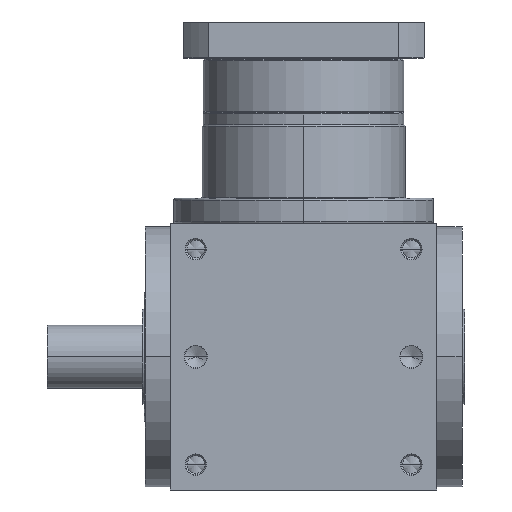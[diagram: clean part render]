
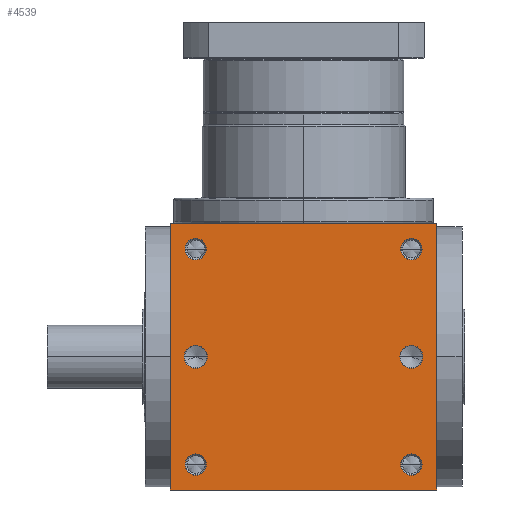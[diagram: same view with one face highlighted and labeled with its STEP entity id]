
A CAD part, front view. The second image highlights one B-rep face of the part: STEP entity #4539.
In plain terms, the highlighted planar face has unit normal (0, -1, 0).
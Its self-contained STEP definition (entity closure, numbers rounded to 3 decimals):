
#5=DIRECTION('',(1.,0.,0.));
#6=VECTOR('',#5,210.);
#7=CARTESIAN_POINT('',(-105.,-105.,-105.));
#8=LINE('',#7,#6);
#155=DIRECTION('',(0.,0.,1.));
#156=VECTOR('',#155,210.);
#157=CARTESIAN_POINT('',(105.,-105.,-105.));
#158=LINE('',#157,#156);
#209=DIRECTION('',(0.,0.,1.));
#210=VECTOR('',#209,210.);
#211=CARTESIAN_POINT('',(-105.,-105.,-105.));
#212=LINE('',#211,#210);
#213=CARTESIAN_POINT('',(85.,-105.,85.));
#214=DIRECTION('',(0.,1.,0.));
#215=DIRECTION('',(-1.,0.,0.));
#216=AXIS2_PLACEMENT_3D('',#213,#214,#215);
#218=CARTESIAN_POINT('',(85.,-105.,85.));
#219=DIRECTION('',(0.,1.,0.));
#220=DIRECTION('',(1.,0.,0.));
#221=AXIS2_PLACEMENT_3D('',#218,#219,#220);
#223=CARTESIAN_POINT('',(-85.,-105.,85.));
#224=DIRECTION('',(0.,1.,0.));
#225=DIRECTION('',(-1.,0.,0.));
#226=AXIS2_PLACEMENT_3D('',#223,#224,#225);
#228=CARTESIAN_POINT('',(-85.,-105.,85.));
#229=DIRECTION('',(0.,1.,0.));
#230=DIRECTION('',(1.,0.,0.));
#231=AXIS2_PLACEMENT_3D('',#228,#229,#230);
#233=CARTESIAN_POINT('',(85.,-105.,-85.));
#234=DIRECTION('',(0.,1.,0.));
#235=DIRECTION('',(-1.,0.,0.));
#236=AXIS2_PLACEMENT_3D('',#233,#234,#235);
#238=CARTESIAN_POINT('',(85.,-105.,-85.));
#239=DIRECTION('',(0.,1.,0.));
#240=DIRECTION('',(1.,0.,0.));
#241=AXIS2_PLACEMENT_3D('',#238,#239,#240);
#243=CARTESIAN_POINT('',(-85.,-105.,-85.));
#244=DIRECTION('',(0.,1.,0.));
#245=DIRECTION('',(-1.,0.,0.));
#246=AXIS2_PLACEMENT_3D('',#243,#244,#245);
#248=CARTESIAN_POINT('',(-85.,-105.,-85.));
#249=DIRECTION('',(0.,1.,0.));
#250=DIRECTION('',(1.,0.,0.));
#251=AXIS2_PLACEMENT_3D('',#248,#249,#250);
#253=CARTESIAN_POINT('',(-85.,-105.,0.));
#254=DIRECTION('',(0.,1.,0.));
#255=DIRECTION('',(1.,0.,0.));
#256=AXIS2_PLACEMENT_3D('',#253,#254,#255);
#258=CARTESIAN_POINT('',(-85.,-105.,0.));
#259=DIRECTION('',(0.,1.,0.));
#260=DIRECTION('',(-1.,0.,0.));
#261=AXIS2_PLACEMENT_3D('',#258,#259,#260);
#263=CARTESIAN_POINT('',(85.,-105.,0.));
#264=DIRECTION('',(0.,1.,0.));
#265=DIRECTION('',(1.,0.,0.));
#266=AXIS2_PLACEMENT_3D('',#263,#264,#265);
#268=CARTESIAN_POINT('',(85.,-105.,0.));
#269=DIRECTION('',(0.,1.,0.));
#270=DIRECTION('',(-1.,0.,0.));
#271=AXIS2_PLACEMENT_3D('',#268,#269,#270);
#285=DIRECTION('',(1.,0.,0.));
#286=VECTOR('',#285,210.);
#287=CARTESIAN_POINT('',(-105.,-105.,105.));
#288=LINE('',#287,#286);
#3660=CARTESIAN_POINT('',(-105.,-105.,-105.));
#3662=VERTEX_POINT('',#3660);
#3663=CARTESIAN_POINT('',(105.,-105.,-105.));
#3664=VERTEX_POINT('',#3663);
#3668=CARTESIAN_POINT('',(-105.,-105.,105.));
#3670=VERTEX_POINT('',#3668);
#3671=CARTESIAN_POINT('',(105.,-105.,105.));
#3672=VERTEX_POINT('',#3671);
#3843=CARTESIAN_POINT('',(76.6,-105.,85.));
#3844=CARTESIAN_POINT('',(93.4,-105.,85.));
#3845=VERTEX_POINT('',#3843);
#3846=VERTEX_POINT('',#3844);
#3851=CARTESIAN_POINT('',(-93.4,-105.,85.));
#3852=CARTESIAN_POINT('',(-76.6,-105.,85.));
#3853=VERTEX_POINT('',#3851);
#3854=VERTEX_POINT('',#3852);
#3859=CARTESIAN_POINT('',(76.6,-105.,-85.));
#3860=CARTESIAN_POINT('',(93.4,-105.,-85.));
#3861=VERTEX_POINT('',#3859);
#3862=VERTEX_POINT('',#3860);
#3867=CARTESIAN_POINT('',(-93.4,-105.,-85.));
#3868=CARTESIAN_POINT('',(-76.6,-105.,-85.));
#3869=VERTEX_POINT('',#3867);
#3870=VERTEX_POINT('',#3868);
#4209=CARTESIAN_POINT('',(-75.95,-105.,
0.));
#4210=CARTESIAN_POINT('',(-94.05,-105.,
0.));
#4211=VERTEX_POINT('',#4209);
#4212=VERTEX_POINT('',#4210);
#4217=CARTESIAN_POINT('',(94.05,-105.,0.));
#4218=CARTESIAN_POINT('',(75.95,-105.,0.));
#4219=VERTEX_POINT('',#4217);
#4220=VERTEX_POINT('',#4218);
#4491=CARTESIAN_POINT('',(-105.,-105.,-105.));
#4492=DIRECTION('',(0.,-1.,0.));
#4493=DIRECTION('',(1.,0.,0.));
#4494=AXIS2_PLACEMENT_3D('',#4491,#4492,#4493);
#4495=PLANE('',#4494);
#4496=ORIENTED_EDGE('',*,*,#4331,.F.);
#4497=ORIENTED_EDGE('',*,*,#4374,.T.);
#4499=ORIENTED_EDGE('',*,*,#4498,.T.);
#4500=ORIENTED_EDGE('',*,*,#4453,.F.);
#4501=EDGE_LOOP('',(#4496,#4497,#4499,#4500));
#4502=FACE_OUTER_BOUND('',#4501,.F.);
#4504=ORIENTED_EDGE('',*,*,#4503,.F.);
#4506=ORIENTED_EDGE('',*,*,#4505,.F.);
#4507=EDGE_LOOP('',(#4504,#4506));
#4508=FACE_BOUND('',#4507,.F.);
#4510=ORIENTED_EDGE('',*,*,#4509,.F.);
#4512=ORIENTED_EDGE('',*,*,#4511,.F.);
#4513=EDGE_LOOP('',(#4510,#4512));
#4514=FACE_BOUND('',#4513,.F.);
#4516=ORIENTED_EDGE('',*,*,#4515,.F.);
#4518=ORIENTED_EDGE('',*,*,#4517,.F.);
#4519=EDGE_LOOP('',(#4516,#4518));
#4520=FACE_BOUND('',#4519,.F.);
#4522=ORIENTED_EDGE('',*,*,#4521,.F.);
#4524=ORIENTED_EDGE('',*,*,#4523,.F.);
#4525=EDGE_LOOP('',(#4522,#4524));
#4526=FACE_BOUND('',#4525,.F.);
#4528=ORIENTED_EDGE('',*,*,#4527,.F.);
#4530=ORIENTED_EDGE('',*,*,#4529,.F.);
#4531=EDGE_LOOP('',(#4528,#4530));
#4532=FACE_BOUND('',#4531,.F.);
#4534=ORIENTED_EDGE('',*,*,#4533,.F.);
#4536=ORIENTED_EDGE('',*,*,#4535,.F.);
#4537=EDGE_LOOP('',(#4534,#4536));
#4538=FACE_BOUND('',#4537,.F.);
#4539=ADVANCED_FACE('',(#4502,#4508,#4514,#4520,#4526,#4532,#4538),#4495,.T.);
#217=CIRCLE('',#216,8.4);
#222=CIRCLE('',#221,8.4);
#227=CIRCLE('',#226,8.4);
#232=CIRCLE('',#231,8.4);
#237=CIRCLE('',#236,8.4);
#242=CIRCLE('',#241,8.4);
#247=CIRCLE('',#246,8.4);
#252=CIRCLE('',#251,8.4);
#257=CIRCLE('',#256,9.05);
#262=CIRCLE('',#261,9.05);
#267=CIRCLE('',#266,9.05);
#272=CIRCLE('',#271,9.05);
#4331=EDGE_CURVE('',#3662,#3664,#8,.T.);
#4374=EDGE_CURVE('',#3662,#3670,#212,.T.);
#4453=EDGE_CURVE('',#3664,#3672,#158,.T.);
#4498=EDGE_CURVE('',#3670,#3672,#288,.T.);
#4503=EDGE_CURVE('',#3845,#3846,#217,.T.);
#4505=EDGE_CURVE('',#3846,#3845,#222,.T.);
#4509=EDGE_CURVE('',#3853,#3854,#227,.T.);
#4511=EDGE_CURVE('',#3854,#3853,#232,.T.);
#4515=EDGE_CURVE('',#3861,#3862,#237,.T.);
#4517=EDGE_CURVE('',#3862,#3861,#242,.T.);
#4521=EDGE_CURVE('',#3869,#3870,#247,.T.);
#4523=EDGE_CURVE('',#3870,#3869,#252,.T.);
#4527=EDGE_CURVE('',#4211,#4212,#257,.T.);
#4529=EDGE_CURVE('',#4212,#4211,#262,.T.);
#4533=EDGE_CURVE('',#4219,#4220,#267,.T.);
#4535=EDGE_CURVE('',#4220,#4219,#272,.T.);
